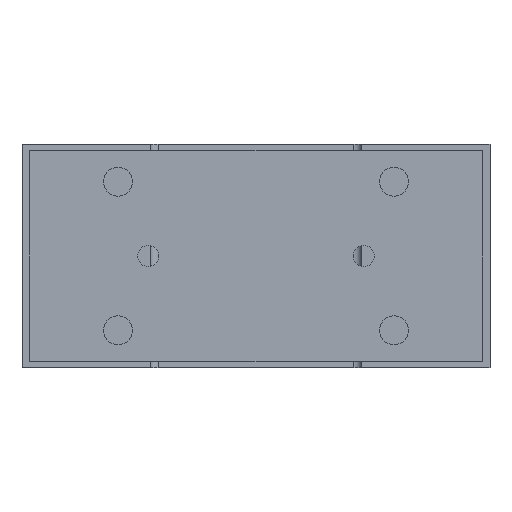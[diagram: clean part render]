
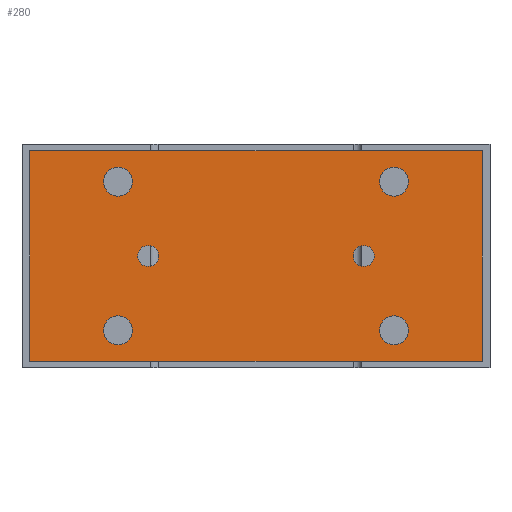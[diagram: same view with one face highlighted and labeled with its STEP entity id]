
A CAD part, left-side view. The second image highlights one B-rep face of the part: STEP entity #280.
In plain terms, the highlighted planar face has unit normal (-1, 0, 0).
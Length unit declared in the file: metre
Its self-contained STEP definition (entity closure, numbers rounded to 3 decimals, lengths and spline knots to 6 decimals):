
#280 = ADVANCED_FACE( '', ( #757, #758, #759, #760, #761, #762, #763 ), #764, .T. );
#757 = FACE_BOUND( '', #1557, .T. );
#758 = FACE_BOUND( '', #1558, .T. );
#759 = FACE_BOUND( '', #1559, .T. );
#760 = FACE_BOUND( '', #1560, .T. );
#761 = FACE_BOUND( '', #1561, .T. );
#762 = FACE_BOUND( '', #1562, .T. );
#763 = FACE_OUTER_BOUND( '', #1563, .T. );
#764 = PLANE( '', #1564 );
#1557 = EDGE_LOOP( '', ( #2409 ) );
#1558 = EDGE_LOOP( '', ( #2410 ) );
#1559 = EDGE_LOOP( '', ( #2411 ) );
#1560 = EDGE_LOOP( '', ( #2412 ) );
#1561 = EDGE_LOOP( '', ( #2413 ) );
#1562 = EDGE_LOOP( '', ( #2414 ) );
#1563 = EDGE_LOOP( '', ( #2415, #2416, #2417, #2418 ) );
#1564 = AXIS2_PLACEMENT_3D( '', #2419, #2420, #2421 );
#2409 = ORIENTED_EDGE( '', *, *, #3887, .F. );
#2410 = ORIENTED_EDGE( '', *, *, #3888, .F. );
#2411 = ORIENTED_EDGE( '', *, *, #3889, .F. );
#2412 = ORIENTED_EDGE( '', *, *, #3890, .F. );
#2413 = ORIENTED_EDGE( '', *, *, #3891, .F. );
#2414 = ORIENTED_EDGE( '', *, *, #3892, .T. );
#2415 = ORIENTED_EDGE( '', *, *, #3893, .T. );
#2416 = ORIENTED_EDGE( '', *, *, #3894, .T. );
#2417 = ORIENTED_EDGE( '', *, *, #3895, .T. );
#2418 = ORIENTED_EDGE( '', *, *, #3896, .T. );
#2419 = CARTESIAN_POINT( '', ( -0.118, -0.086, -0.0025 ) );
#2420 = DIRECTION( '', ( -1., 0., 0. ) );
#2421 = DIRECTION( '', ( 0., 0., 1. ) );
#3887 = EDGE_CURVE( '', #4510, #4510, #4511, .T. );
#3888 = EDGE_CURVE( '', #4512, #4512, #4513, .T. );
#3889 = EDGE_CURVE( '', #4514, #4514, #4515, .T. );
#3890 = EDGE_CURVE( '', #4516, #4516, #4517, .T. );
#3891 = EDGE_CURVE( '', #4518, #4518, #4519, .T. );
#3892 = EDGE_CURVE( '', #4520, #4520, #4521, .T. );
#3893 = EDGE_CURVE( '', #4522, #4523, #4524, .T. );
#3894 = EDGE_CURVE( '', #4523, #4525, #4526, .T. );
#3895 = EDGE_CURVE( '', #4525, #4527, #4528, .T. );
#3896 = EDGE_CURVE( '', #4527, #4522, #4529, .T. );
#4510 = VERTEX_POINT( '', #5371 );
#4511 = CIRCLE( '', #5372, 0.0055 );
#4512 = VERTEX_POINT( '', #5373 );
#4513 = CIRCLE( '', #5374, 0.0055 );
#4514 = VERTEX_POINT( '', #5375 );
#4515 = CIRCLE( '', #5376, 0.0055 );
#4516 = VERTEX_POINT( '', #5377 );
#4517 = CIRCLE( '', #5378, 0.0055 );
#4518 = VERTEX_POINT( '', #5379 );
#4519 = CIRCLE( '', #5380, 0.004 );
#4520 = VERTEX_POINT( '', #5381 );
#4521 = CIRCLE( '', #5382, 0.004 );
#4522 = VERTEX_POINT( '', #5383 );
#4523 = VERTEX_POINT( '', #5384 );
#4524 = LINE( '', #5385, #5386 );
#4525 = VERTEX_POINT( '', #5387 );
#4526 = LINE( '', #5388, #5389 );
#4527 = VERTEX_POINT( '', #5390 );
#4528 = LINE( '', #5391, #5392 );
#4529 = LINE( '', #5393, #5394 );
#5371 = CARTESIAN_POINT( '', ( -0.118, -0.0525, -0.06525 ) );
#5372 = AXIS2_PLACEMENT_3D( '', #6620, #6621, #6622 );
#5373 = CARTESIAN_POINT( '', ( -0.118, 0.0525, -0.06525 ) );
#5374 = AXIS2_PLACEMENT_3D( '', #6623, #6624, #6625 );
#5375 = CARTESIAN_POINT( '', ( -0.118, -0.0525, -0.00875 ) );
#5376 = AXIS2_PLACEMENT_3D( '', #6626, #6627, #6628 );
#5377 = CARTESIAN_POINT( '', ( -0.118, 0.0525, -0.00875 ) );
#5378 = AXIS2_PLACEMENT_3D( '', #6629, #6630, #6631 );
#5379 = CARTESIAN_POINT( '', ( -0.118, -0.037, -0.0425 ) );
#5380 = AXIS2_PLACEMENT_3D( '', #6632, #6633, #6634 );
#5381 = CARTESIAN_POINT( '', ( -0.118, 0.037, -0.0425 ) );
#5382 = AXIS2_PLACEMENT_3D( '', #6635, #6636, #6637 );
#5383 = CARTESIAN_POINT( '', ( -0.118, -0.086, -0.0825 ) );
#5384 = CARTESIAN_POINT( '', ( -0.118, -0.086, -0.0025 ) );
#5385 = CARTESIAN_POINT( '', ( -0.118, -0.086, -0.0825 ) );
#5386 = VECTOR( '', #6638, 1. );
#5387 = CARTESIAN_POINT( '', ( -0.118, 0.086, -0.0025 ) );
#5388 = CARTESIAN_POINT( '', ( -0.118, -0.086, -0.0025 ) );
#5389 = VECTOR( '', #6639, 1. );
#5390 = CARTESIAN_POINT( '', ( -0.118, 0.086, -0.0825 ) );
#5391 = CARTESIAN_POINT( '', ( -0.118, 0.086, -0.0025 ) );
#5392 = VECTOR( '', #6640, 1. );
#5393 = CARTESIAN_POINT( '', ( -0.118, 0.086, -0.0825 ) );
#5394 = VECTOR( '', #6641, 1. );
#6620 = CARTESIAN_POINT( '', ( -0.118, -0.0525, -0.07075 ) );
#6621 = DIRECTION( '', ( -1., 0., 0. ) );
#6622 = DIRECTION( '', ( 0., 0., 1. ) );
#6623 = CARTESIAN_POINT( '', ( -0.118, 0.0525, -0.07075 ) );
#6624 = DIRECTION( '', ( -1., 0., 0. ) );
#6625 = DIRECTION( '', ( 0., 0., 1. ) );
#6626 = CARTESIAN_POINT( '', ( -0.118, -0.0525, -0.01425 ) );
#6627 = DIRECTION( '', ( -1., 0., 0. ) );
#6628 = DIRECTION( '', ( 0., 0., 1. ) );
#6629 = CARTESIAN_POINT( '', ( -0.118, 0.0525, -0.01425 ) );
#6630 = DIRECTION( '', ( -1., 0., 0. ) );
#6631 = DIRECTION( '', ( 0., 0., 1. ) );
#6632 = CARTESIAN_POINT( '', ( -0.118, -0.041, -0.0425 ) );
#6633 = DIRECTION( '', ( -1., 0., 0. ) );
#6634 = DIRECTION( '', ( 0., 1., 0. ) );
#6635 = CARTESIAN_POINT( '', ( -0.118, 0.041, -0.0425 ) );
#6636 = DIRECTION( '', ( 1., 0., 0. ) );
#6637 = DIRECTION( '', ( 0., -1., 0. ) );
#6638 = DIRECTION( '', ( 0., 0., 1. ) );
#6639 = DIRECTION( '', ( 0., 1., 0. ) );
#6640 = DIRECTION( '', ( 0., 0., -1. ) );
#6641 = DIRECTION( '', ( 0., -1., 0. ) );
